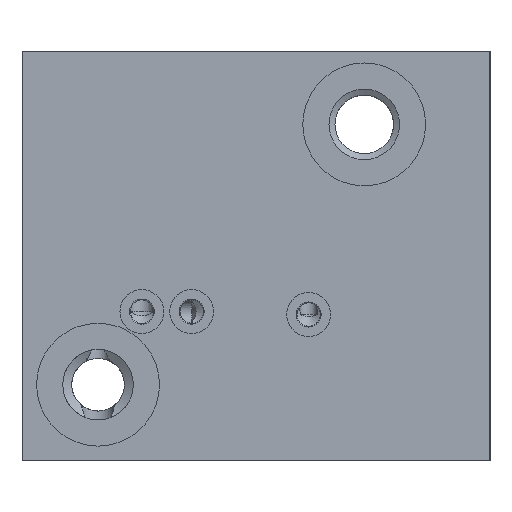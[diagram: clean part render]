
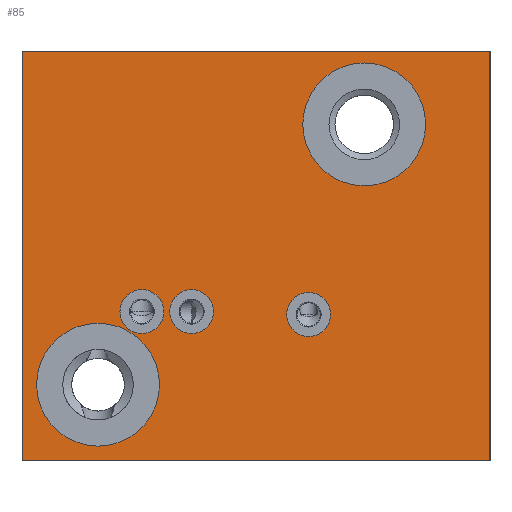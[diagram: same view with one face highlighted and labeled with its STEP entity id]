
A CAD part, left-side view. The second image highlights one B-rep face of the part: STEP entity #85.
In plain terms, the highlighted planar face has unit normal (-1, 0, 0).
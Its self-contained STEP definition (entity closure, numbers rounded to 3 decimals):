
#85=ADVANCED_FACE('',(#6976,#6978,#6980,#6982,#6984,#6986),#6988,.T.);
#6976=FACE_BOUND('',#6977,.T.);
#6977=EDGE_LOOP('',(#13837,#13838,#13839,#13840));
#6978=FACE_BOUND('',#6979,.T.);
#6979=EDGE_LOOP('',(#13841));
#6980=FACE_BOUND('',#6981,.T.);
#6981=EDGE_LOOP('',(#13842));
#6982=FACE_BOUND('',#6983,.T.);
#6983=EDGE_LOOP('',(#13843));
#6984=FACE_BOUND('',#6985,.T.);
#6985=EDGE_LOOP('',(#13844));
#6986=FACE_BOUND('',#6987,.T.);
#6987=EDGE_LOOP('',(#13845));
#6988=PLANE('',#6989);
#6989=AXIS2_PLACEMENT_3D('',#6990,#6991,#6992);
#6990=CARTESIAN_POINT('',(-545.,0.,0.));
#6991=DIRECTION('',(-1.,0.,0.));
#6992=DIRECTION('',(0.,-1.,0.));
#13837=ORIENTED_EDGE('',*,*,#16289,.T.);
#13838=ORIENTED_EDGE('',*,*,#16301,.T.);
#13839=ORIENTED_EDGE('',*,*,#16302,.F.);
#13840=ORIENTED_EDGE('',*,*,#16217,.F.);
#13841=ORIENTED_EDGE('',*,*,#16303,.T.);
#13842=ORIENTED_EDGE('',*,*,#16304,.T.);
#13843=ORIENTED_EDGE('',*,*,#16305,.T.);
#13844=ORIENTED_EDGE('',*,*,#16306,.T.);
#13845=ORIENTED_EDGE('',*,*,#16307,.T.);
#16217=EDGE_CURVE('',#17450,#17452,#17453,.T.);
#16289=EDGE_CURVE('',#17450,#17593,#17595,.T.);
#16301=EDGE_CURVE('',#17593,#17618,#17619,.T.);
#16302=EDGE_CURVE('',#17452,#17618,#17620,.T.);
#16303=EDGE_CURVE('',#17621,#17621,#17622,.F.);
#16304=EDGE_CURVE('',#17623,#17623,#17624,.F.);
#16305=EDGE_CURVE('',#17625,#17625,#17626,.F.);
#16306=EDGE_CURVE('',#17627,#17627,#17628,.F.);
#16307=EDGE_CURVE('',#17629,#17629,#17630,.F.);
#17450=VERTEX_POINT('',#19776);
#17452=VERTEX_POINT('',#19780);
#17453=LINE('',#19781,#19782);
#17593=VERTEX_POINT('',#20163);
#17595=LINE('',#20167,#20168);
#17618=VERTEX_POINT('',#20225);
#17619=LINE('',#20226,#20227);
#17620=LINE('',#20229,#20230);
#17621=VERTEX_POINT('',#20232);
#17622=CIRCLE('',#20233,7.5);
#17623=VERTEX_POINT('',#20237);
#17624=CIRCLE('',#20238,7.5);
#17625=VERTEX_POINT('',#20242);
#17626=CIRCLE('',#20243,21.);
#17627=VERTEX_POINT('',#20247);
#17628=CIRCLE('',#20248,21.);
#17629=VERTEX_POINT('',#20252);
#17630=CIRCLE('',#20253,7.5);
#19776=CARTESIAN_POINT('',(-545.,0.,0.));
#19780=CARTESIAN_POINT('',(-545.,0.,140.));
#19781=CARTESIAN_POINT('',(-545.,0.,0.));
#19782=VECTOR('',#19783,1.);
#19783=DIRECTION('',(0.,0.,1.));
#20163=CARTESIAN_POINT('',(-545.,-160.,0.));
#20167=CARTESIAN_POINT('',(-545.,0.,0.));
#20168=VECTOR('',#20169,1.);
#20169=DIRECTION('',(0.,-1.,0.));
#20225=CARTESIAN_POINT('',(-545.,-160.,140.));
#20226=CARTESIAN_POINT('',(-545.,-160.,0.));
#20227=VECTOR('',#20228,1.);
#20228=DIRECTION('',(0.,0.,1.));
#20229=CARTESIAN_POINT('',(-545.,0.,140.));
#20230=VECTOR('',#20231,1.);
#20231=DIRECTION('',(0.,-1.,0.));
#20232=CARTESIAN_POINT('',(-545.,-90.5,50.));
#20233=AXIS2_PLACEMENT_3D('',#20234,#20235,#20236);
#20234=CARTESIAN_POINT('',(-545.,-98.,50.));
#20235=DIRECTION('',(-1.,0.,0.));
#20236=DIRECTION('',(0.,1.,0.));
#20237=CARTESIAN_POINT('',(-545.,-33.5,51.));
#20238=AXIS2_PLACEMENT_3D('',#20239,#20240,#20241);
#20239=CARTESIAN_POINT('',(-545.,-41.,51.));
#20240=DIRECTION('',(-1.,0.,0.));
#20241=DIRECTION('',(0.,1.,0.));
#20242=CARTESIAN_POINT('',(-545.,-96.,115.));
#20243=AXIS2_PLACEMENT_3D('',#20244,#20245,#20246);
#20244=CARTESIAN_POINT('',(-545.,-117.,115.));
#20245=DIRECTION('',(-1.,0.,0.));
#20246=DIRECTION('',(0.,1.,0.));
#20247=CARTESIAN_POINT('',(-545.,-5.,26.));
#20248=AXIS2_PLACEMENT_3D('',#20249,#20250,#20251);
#20249=CARTESIAN_POINT('',(-545.,-26.,26.));
#20250=DIRECTION('',(-1.,0.,0.));
#20251=DIRECTION('',(0.,1.,0.));
#20252=CARTESIAN_POINT('',(-545.,-50.5,51.));
#20253=AXIS2_PLACEMENT_3D('',#20254,#20255,#20256);
#20254=CARTESIAN_POINT('',(-545.,-58.,51.));
#20255=DIRECTION('',(-1.,0.,0.));
#20256=DIRECTION('',(0.,1.,0.));
